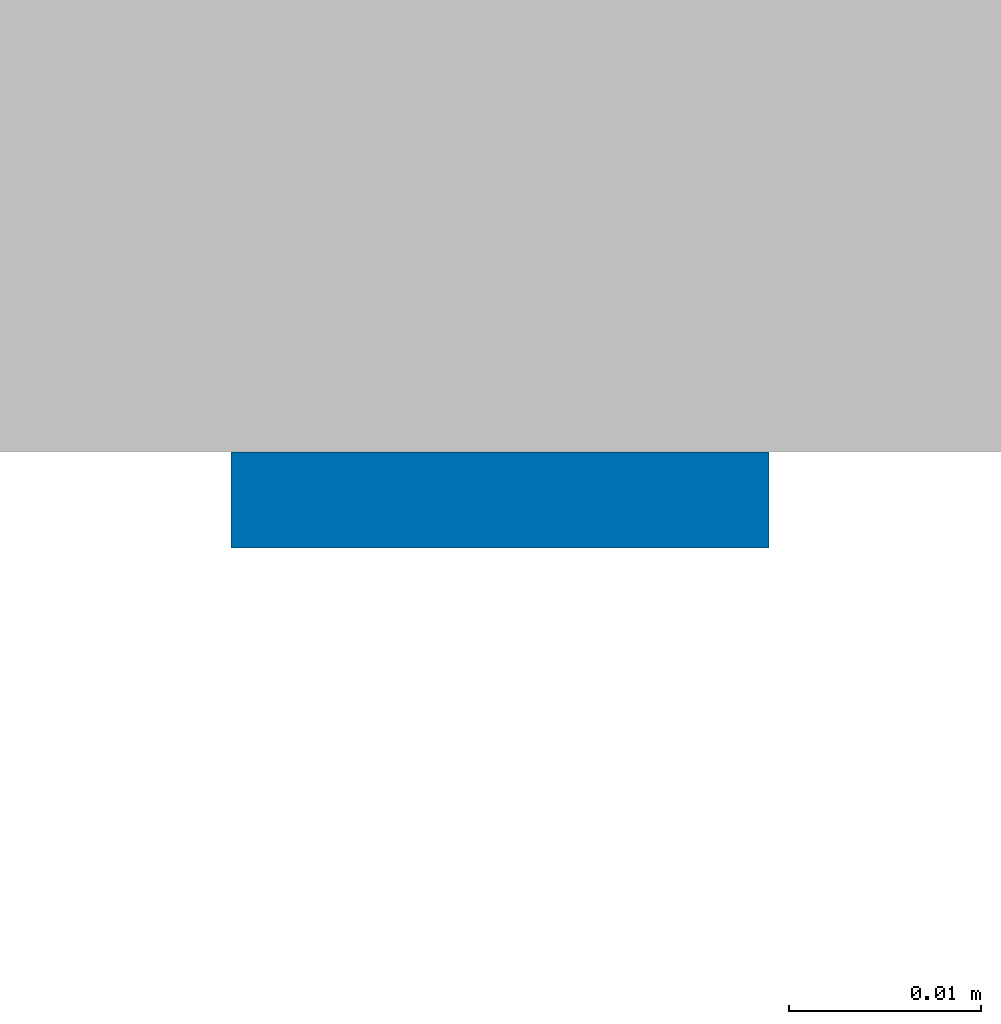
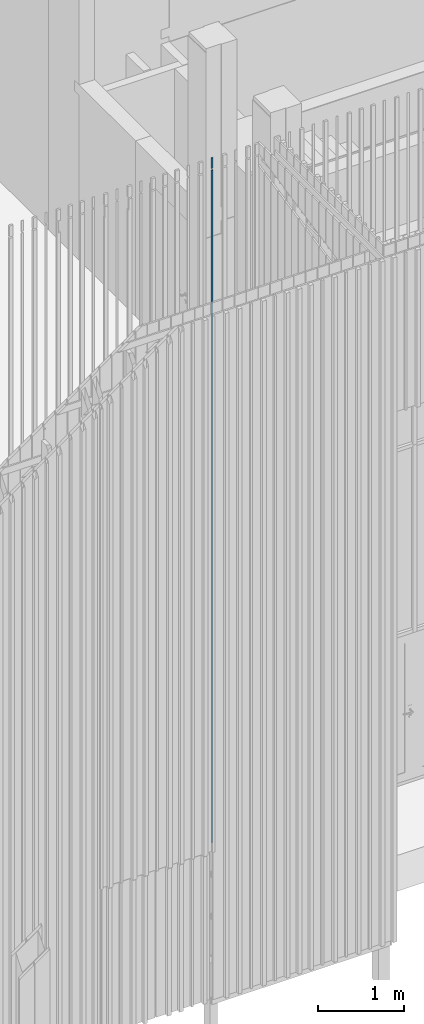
# One storey, part 145 of 390: 1 wall.
"""IFC2X3 building model written with IfcOpenShell, lengths in millimetres."""

import ifcopenshell
import ifcopenshell.guid

model = None  # the IFC model being written
_history = None  # IfcOwnerHistory: only IFC2X3 demands one
_inside = {}  # id of a spatial element -> (the spatial element, [elements in it])
_under = {}  # id of a project, library or spatial element -> (it, [spatial elements below it])
_declared = {}  # id of a project -> (the project, [libraries it declares])
_typed = {}  # id of a type object -> (the type object, [elements of that type])
_made_of = {}  # id of a material, layer set ... -> (it, [elements and type objects made of it])


def new_model(schema):
    """Start an empty IFC model of exactly this schema.

    Asked for "IFC4X3", IfcOpenShell would pick the latest addendum, in which some entities
    have other attributes; the version numbers below select the first issue.
    IFC2X3 requires an IfcOwnerHistory on every rooted entity: one is made here for all.
    """
    global model, _history
    if schema == "IFC4X3":
        model = ifcopenshell.file(schema_version=(4, 3, 0, 0))
    else:
        model = ifcopenshell.file(schema=schema)
    _inside.clear()
    _under.clear()
    _declared.clear()
    _typed.clear()
    _made_of.clear()
    _history = None
    if model.schema == "IFC2X3":
        org = make("IfcOrganization", Name="unknown")
        user = make(
            "IfcPersonAndOrganization",
            ThePerson=make("IfcPerson", FamilyName="unknown"),
            TheOrganization=org,
        )
        app = make(
            "IfcApplication",
            ApplicationDeveloper=org,
            Version="unknown",
            ApplicationFullName="unknown",
            ApplicationIdentifier="unknown",
        )
        _history = make(
            "IfcOwnerHistory",
            OwningUser=user,
            OwningApplication=app,
            ChangeAction="ADDED",
            CreationDate=0,
        )
    return model


def make(cls, **values):
    """One entity of the class cls with the attributes given. An attribute that is None is left unset."""
    return model.create_entity(
        cls, **{name: value for name, value in values.items() if value is not None}
    )


def entity(cls, *values):
    """Any entity or typed value of the class cls, its attributes in the order of the schema. None: left unset."""
    e = model.create_entity(cls)
    for i, value in enumerate(values):
        if value is not None:
            e[i] = value
    return e


def rooted(cls, **values):
    """An entity with a GlobalId (a new one), such as an element, a storey or a relation."""
    return make(cls, GlobalId=ifcopenshell.guid.new(), OwnerHistory=_history, **values)


def si_unit(unit_type, name, prefix=None):
    """IfcSIUnit, for example si_unit("LENGTHUNIT", "METRE", prefix="MILLI")."""
    return make("IfcSIUnit", UnitType=unit_type, Prefix=prefix, Name=name)


def converted_unit(unit_type, name, factor, base, dimensions=None, offset=None):
    """IfcConversionBasedUnit, such as the inch: factor (a typed value) times the base unit."""
    return make(
        "IfcConversionBasedUnit"
        if offset is None
        else "IfcConversionBasedUnitWithOffset",
        ConversionOffset=offset,
        Dimensions=None
        if dimensions is None
        else entity("IfcDimensionalExponents", *dimensions),
        UnitType=unit_type,
        Name=name,
        ConversionFactor=make(
            "IfcMeasureWithUnit", ValueComponent=factor, UnitComponent=base
        ),
    )


def derived_unit(unit_type, elements):
    """IfcDerivedUnit: a product of units, each with its exponent."""
    return make(
        "IfcDerivedUnit",
        Elements=[
            make("IfcDerivedUnitElement", Unit=unit, Exponent=power)
            for unit, power in elements
        ],
        UnitType=unit_type,
    )


def money_unit(currency):
    """IfcMonetaryUnit."""
    return make("IfcMonetaryUnit", Currency=currency)


def assignment(units):
    """IfcUnitAssignment: the units of a project."""
    return None if units is None else make("IfcUnitAssignment", Units=units)


def point(xyz):
    """IfcCartesianPoint."""
    return None if xyz is None else make("IfcCartesianPoint", Coordinates=xyz)


def direction(xyz):
    """IfcDirection."""
    return None if xyz is None else make("IfcDirection", DirectionRatios=xyz)


def frame(location, z_axis=None, x_axis=None):
    """IfcAxis2Placement3D, a coordinate frame: its origin and axes. An axis left out is left unset."""
    return make(
        "IfcAxis2Placement3D",
        Location=point(location),
        Axis=direction(z_axis),
        RefDirection=direction(x_axis),
    )


def origin_with_axes():
    """The frame at (0, 0, 0) with the z axis (0, 0, 1) and the x axis (1, 0, 0) written out."""
    return frame((0.0, 0.0, 0.0), z_axis=(0.0, 0.0, 1.0), x_axis=(1.0, 0.0, 0.0))


def place(relative_to, where):
    """IfcLocalPlacement: puts the frame where relative to a parent placement (None: the world)."""
    return make(
        "IfcLocalPlacement", PlacementRelTo=relative_to, RelativePlacement=where
    )


def context(
    kind, dimensions, precision=None, world=None, true_north=None, identifier=None
):
    """IfcGeometricRepresentationContext, for example the 3D "Model" context."""
    return make(
        "IfcGeometricRepresentationContext",
        ContextIdentifier=identifier,
        ContextType=kind,
        CoordinateSpaceDimension=dimensions,
        Precision=precision,
        WorldCoordinateSystem=world,
        TrueNorth=true_north,
    )


def subcontext(parent, identifier, kind, view, scale=None):
    """IfcGeometricRepresentationSubContext, for example "Body" below "Model"."""
    return make(
        "IfcGeometricRepresentationSubContext",
        ContextIdentifier=identifier,
        ContextType=kind,
        ParentContext=parent,
        TargetScale=scale,
        TargetView=view,
    )


def project(units=None, contexts=None):
    """IfcProject with its units and contexts."""
    return rooted(
        "IfcProject",
        Name="project",
        RepresentationContexts=contexts,
        UnitsInContext=assignment(units),
    )


def spatial(cls, under=None, at=None, **own):
    """A site, building, storey or space (cls), placed at a placement, below another one or the project."""
    s = rooted(cls, ObjectPlacement=at, **own)
    if under is not None:
        _under.setdefault(under.id(), (under, []))[1].append(s)
    return s


def faces_of(points, faces, orient=None, outer=None):
    """IfcFace entities. A face is a list of loops; a loop is a list of indices into points, from 0.

    orient and outer hold one flag for each loop. By default every Orientation is true, the
    first loop of a face is its IfcFaceOuterBound and the others are IfcFaceBound.
    """
    made = []
    for i, loops in enumerate(faces):
        bounds = []
        for j, loop in enumerate(loops):
            is_outer = j == 0 if outer is None else outer[i][j]
            bounds.append(
                make(
                    "IfcFaceOuterBound" if is_outer else "IfcFaceBound",
                    Bound=make("IfcPolyLoop", Polygon=[points[k] for k in loop]),
                    Orientation=True if orient is None else orient[i][j],
                )
            )
        made.append(make("IfcFace", Bounds=bounds))
    return made


def faceted_brep(points, faces, orient=None, outer=None, voids=None):
    """IfcFacetedBrep: a solid bounded by flat faces; with voids (closed shells), ...WithVoids."""
    shared = [point(p) for p in points]
    hull = make("IfcClosedShell", CfsFaces=faces_of(shared, faces, orient, outer))
    if voids is None:
        return make("IfcFacetedBrep", Outer=hull)
    return make(
        "IfcFacetedBrepWithVoids",
        Outer=hull,
        Voids=[
            make(cls, CfsFaces=faces_of(shared, fs, o, b)) for cls, fs, o, b in voids
        ],
    )


def shape(context_of_items, identifier, shape_type, items):
    """IfcShapeRepresentation: the items that make up one representation, for example the "Body"."""
    return make(
        "IfcShapeRepresentation",
        ContextOfItems=context_of_items,
        RepresentationIdentifier=identifier,
        RepresentationType=shape_type,
        Items=items,
    )


def material(Name=None, Category=None):
    """IfcMaterial."""
    return make("IfcMaterial", Name=Name, Category=Category)


def material_list(materials):
    """IfcMaterialList."""
    return make("IfcMaterialList", Materials=materials)


def made_of(thing, what):
    """Note that an element or type object is made of a material, layer set ...; save() writes the relation."""
    if what is not None:
        _made_of.setdefault(what.id(), (what, []))[1].append(thing)
    return thing


def type_object(cls, material=None, **own):
    """A type object (cls), such as IfcWallType, which elements share."""
    return made_of(rooted(cls, **own), material)


def element(
    cls,
    number,
    at=None,
    inside=None,
    cuts=None,
    type_object=None,
    material=None,
    context=None,
    identifier="Body",
    shape_type=None,
    held_by="IfcProductDefinitionShape",
    body=None,
    shapes=None,
    **own,
):
    """One element of the class cls, such as IfcWall. Its Tag is "e" and its number.

    at: its placement. inside: the storey or other place that contains it. cuts: it is an
    opening in that element (IfcRelVoidsElement). A single representation is given by context,
    identifier, shape_type and body (its items); several are given by shapes. held_by: the class
    of the entity that holds the representations. save() writes the other relations.
    """
    e = rooted(cls, Tag="e%d" % number, ObjectPlacement=at, **own)
    if body is not None:
        shapes = [shape(context, identifier, shape_type, body)]
    if shapes is not None:
        e.Representation = make(held_by, Representations=shapes)
    if inside is not None:
        _inside.setdefault(inside.id(), (inside, []))[1].append(e)
    if cuts is not None:
        rooted(
            "IfcRelVoidsElement", RelatingBuildingElement=cuts, RelatedOpeningElement=e
        )
    if type_object is not None:
        _typed.setdefault(type_object.id(), (type_object, []))[1].append(e)
    return made_of(e, material)


def aggregate(whole, parts):
    """IfcRelAggregates: a whole, such as a stair, and the parts it consists of."""
    return rooted("IfcRelAggregates", RelatingObject=whole, RelatedObjects=parts)


def save(model, path):
    """Write the relations noted so far, then the file.

    IfcRelAggregates (storeys below a building ...), IfcRelContainedInSpatialStructure (elements
    in a storey), IfcRelDefinesByType, IfcRelAssociatesMaterial and IfcRelDeclares: one each for
    every whole, place, type object, material and project.
    """
    for whole, parts in _under.values():
        aggregate(whole, parts)
    for where, things in _inside.values():
        rooted(
            "IfcRelContainedInSpatialStructure",
            RelatedElements=things,
            RelatingStructure=where,
        )
    for kind, things in _typed.values():
        rooted("IfcRelDefinesByType", RelatedObjects=things, RelatingType=kind)
    for what, things in _made_of.values():
        rooted("IfcRelAssociatesMaterial", RelatedObjects=things, RelatingMaterial=what)
    for by, libraries in _declared.values():
        rooted("IfcRelDeclares", RelatingContext=by, RelatedDefinitions=libraries)
    model.write(path)


model = new_model("IFC2X3")

# Units and contexts
model_context = context("Model", 3, precision=1e-05, world=origin_with_axes(), true_north=direction((0.0, 1.0)))
body_context = subcontext(model_context, "Body", "Model", "MODEL_VIEW")
ifc_project = project(units=[si_unit("LENGTHUNIT", "METRE", prefix="MILLI"), si_unit("AREAUNIT", "SQUARE_METRE"), si_unit("VOLUMEUNIT", "CUBIC_METRE"), converted_unit("PLANEANGLEUNIT", "DEGREE", entity("IfcPlaneAngleMeasure", 0.0174532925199), si_unit("PLANEANGLEUNIT", "RADIAN"), dimensions=[0, 0, 0, 0, 0, 0, 0]), si_unit("SOLIDANGLEUNIT", "STERADIAN"), money_unit("EUR"), converted_unit("TIMEUNIT", "Year", entity("IfcTimeMeasure", 31556926.0), si_unit("TIMEUNIT", "SECOND"), dimensions=[0, 0, 1, 0, 0, 0, 0]), si_unit("MASSUNIT", "GRAM", prefix="KILO"), si_unit("THERMODYNAMICTEMPERATUREUNIT", "DEGREE_CELSIUS"), si_unit("LUMINOUSINTENSITYUNIT", "LUMEN"), si_unit("ENERGYUNIT", "JOULE", prefix="MEGA"), derived_unit("THERMALCONDUCTANCEUNIT", [(si_unit("POWERUNIT", "WATT"), 1), (si_unit("LENGTHUNIT", "METRE"), -1), (si_unit("THERMODYNAMICTEMPERATUREUNIT", "KELVIN"), -1)]), derived_unit("SPECIFICHEATCAPACITYUNIT", [(si_unit("ENERGYUNIT", "JOULE"), 1), (si_unit("MASSUNIT", "GRAM", prefix="KILO"), -1), (si_unit("THERMODYNAMICTEMPERATUREUNIT", "KELVIN"), -1)]), derived_unit("MASSDENSITYUNIT", [(si_unit("MASSUNIT", "GRAM", prefix="KILO"), 1), (si_unit("VOLUMEUNIT", "CUBIC_METRE"), -1)])], contexts=[model_context])

# Site, building, storey
site_placement = place(None, origin_with_axes())
site = spatial("IfcSite", under=ifc_project, at=site_placement, Name="Site", CompositionType="ELEMENT")
building_placement = place(site_placement, origin_with_axes())
building = spatial("IfcBuilding", under=site, at=building_placement, Name="Building", CompositionType="ELEMENT")
storey_placement = place(building_placement, origin_with_axes())
storey = spatial("IfcBuildingStorey", under=building, at=storey_placement, Name="1 korrus", CompositionType="ELEMENT", Elevation=0.0)

# Wall
ifc_material = material(Name="Site specified")
ifc_material_list = material_list([ifc_material, ifc_material])
wall_type = type_object("IfcWallType", Name="Puitfassaadi ribistik", PredefinedType="NOTDEFINED")
wall_placement = place(storey_placement, frame((128223.999994, 45272.0000159, 100.000000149), z_axis=(0.0, 0.0, 1.0), x_axis=(-1.0, 0.0, 0.0)))
element("IfcWall", 1, at=wall_placement, inside=storey, type_object=wall_type, material=ifc_material_list, Name="Site specified", context=body_context, shape_type="Brep", body=[
    faceted_brep([(14.0, 9.00010381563, -3.12924797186e-06), (14.0, 9.00000750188, 9591.91726162), (-14.0, 9.00000750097, 9591.91726162), (-14.0, 9.00010381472, -3.12924797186e-06), (14.0, 14.0, 0.0), (14.0, 14.0, 9590.85448041), (-14.0, 14.0, 9590.85448041), (-14.0, 14.0, 0.0)], [[[0, 1, 2, 3]], [[4, 5, 1, 0]], [[5, 6, 2, 1]], [[3, 2, 6, 7]], [[0, 3, 7, 4]], [[7, 6, 5, 4]]]),
    faceted_brep([(-14.0, 14.0, 9764.99999985), (-14.0, 14.0, 9612.3236329), (-14.0, 9.00000750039, 9613.38641411), (-14.0, 9.00000750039, 9764.99999985), (14.0, 14.0, 9764.99999985), (14.0, 14.0, 9612.3236329), (14.0, 9.0000075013, 9613.38641411), (14.0, 9.0000075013, 9764.99999985)], [[[0, 1, 2, 3]], [[4, 5, 1, 0]], [[5, 6, 2, 1]], [[3, 2, 6, 7]], [[3, 7, 4, 0]], [[7, 6, 5, 4]]]),
])

save(model, "model.ifc")
